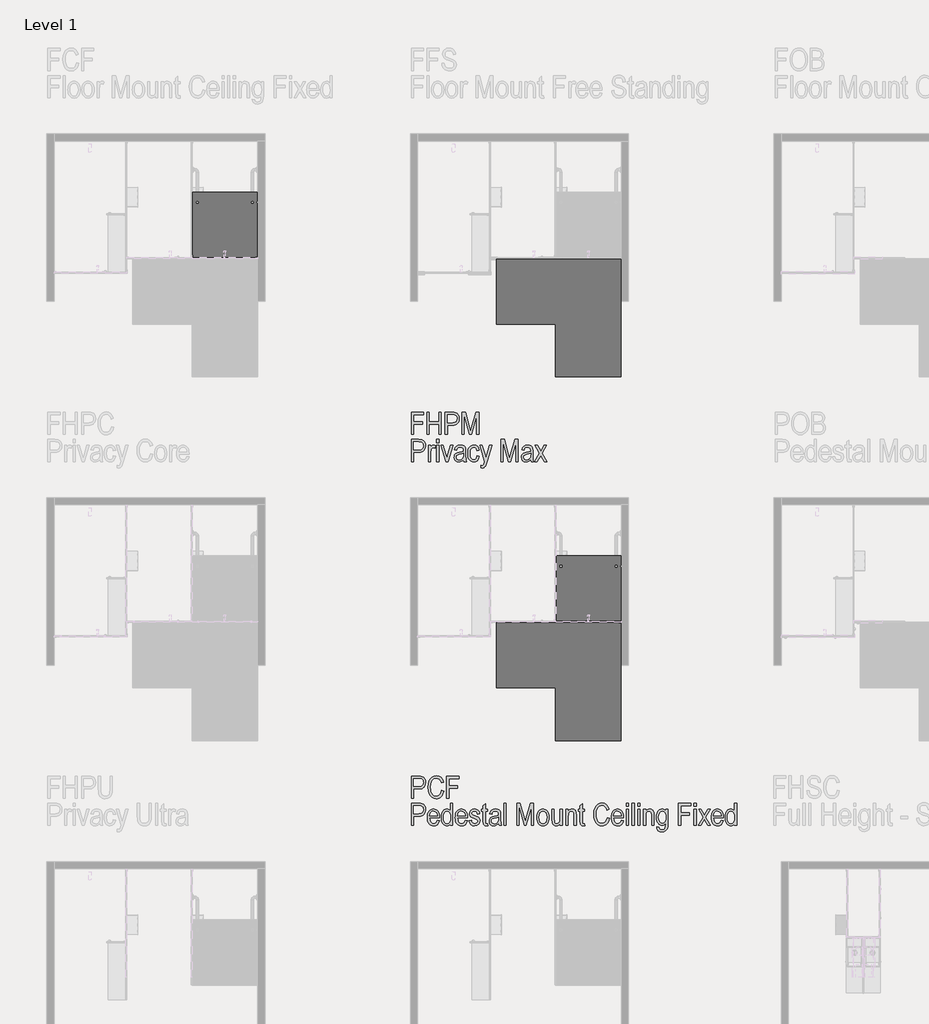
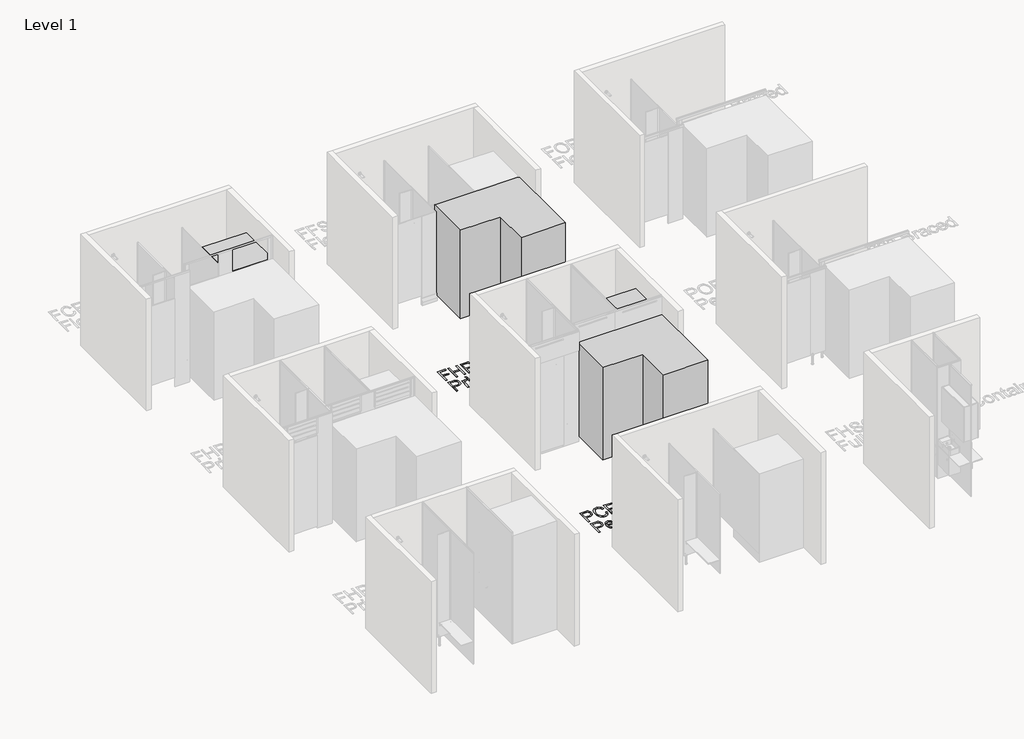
# One storey, part 9 of 21: 6 proxies.
"""IFC4 building model written with IfcOpenShell, lengths in millimetres."""

from ifc_helpers import new_model, si_unit, origin, origin_with_axes, place, context, project, spatial, polyline, outline, extrude, transform, mapped, element, save
from components import standard_f88c7766, standard_ef1a4fdd, standard_9fa9c6f0, standard_de9d4adc

model = new_model("IFC4")

# Units and contexts
model_context = context("Model", 3, world=origin())
ifc_project = project(units=[si_unit("LENGTHUNIT", "METRE", prefix="MILLI")], contexts=[model_context])

# Site, building, storey
site = spatial("IfcSite", under=ifc_project)
building = spatial("IfcBuilding", under=site)
storey = spatial("IfcBuildingStorey", under=building, Name="Level 1", Elevation=0.0)

# Proxies
placement = place(None, origin())
element("IfcBuildingElementProxy", 1, Name="Arial Narrow-300mm", ObjectType="Arial Narrow-300mm", at=placement, inside=storey, context=model_context, shape_type="SweptSolid", body=[
    extrude(outline(polyline([(-6218.8829157, 1023.6753804), (-6218.8829157, 1328.8527498), (-6124.0533551, 1328.8527498), (-6094.9430642, 1327.4299218), (-6074.6773795, 1323.161438), (-6055.1038814, 1312.0960665), (-6039.9142316, 1294.4356951), (-6030.1659373, 1271.0647846), (-6026.9165059, 1242.8677954), (-6032.3290204, 1206.278044), (-6039.0946635, 1190.7663352), (-6048.5665638, 1177.1100709), (-6061.3599982, 1165.9725967), (-6078.0902439, 1158.0172579), (-6098.7573006, 1153.2440547), (-6123.3611685, 1151.6529869), (-6189.3496219, 1151.6529869), (-6189.3496219, 1023.6753804), (-6218.8829157, 1023.6753804)]), holes=[polyline([(-6189.3496219, 1186.1084964), (-6119.7464164, 1186.1084964), (-6091.3090847, 1189.5405881), (-6071.6779044, 1199.8368634), (-6060.2568259, 1217.0550044), (-6056.4497997, 1241.2526934), (-6058.3244717, 1257.9516945), (-6063.9484876, 1272.0549959), (-6072.2258854, 1282.8511837), (-6082.060703, 1289.6288439), (-6096.9619417, 1293.2051412), (-6120.438603, 1294.3972403), (-6189.3496219, 1294.3972403), (-6189.3496219, 1186.1084964)])]), origin_with_axes(), (0.0, 0.0, 1.0), 5.0),
    extrude(outline(polyline([(-5805.4168023, 1131.9641244), (-5775.8835085, 1122.1196931), (-5790.7078377, 1076.6564944), (-5801.162739, 1058.8783552), (-5813.6461316, 1044.4025228), (-5827.879218, 1033.1809287), (-5843.5832009, 1025.1655043), (-5860.7580803, 1020.3562496), (-5879.4038561, 1018.7531648), (-5910.9368, 1022.9831938), (-5937.5475283, 1035.673281), (-5959.5052246, 1057.7175006), (-5977.0790726, 1090.0099271), (-5988.6155155, 1130.8008664), (-5992.4609965, 1178.3406248), (-5988.6251292, 1224.7651938), (-5977.1175274, 1263.4411186), (-5959.0629943, 1293.9838511), (-5935.586333, 1316.0088434), (-5907.870029, 1329.3334349), (-5877.0965675, 1333.7749654), (-5844.2177053, 1328.1509495), (-5816.3379683, 1311.2789018), (-5794.7648201, 1283.5049155), (-5780.8057242, 1245.175084), (-5810.339018, 1235.3306527), (-5820.9237043, 1263.3257541), (-5835.7576472, 1283.3222552), (-5854.8408464, 1295.3201558), (-5878.1733022, 1299.319456), (-5901.8518512, 1296.1277068), (-5922.1271496, 1286.5524592), (-5938.8357644, 1270.2187788), (-5951.8142627, 1246.7517312), (-5960.1493427, 1216.132089), (-5962.9277027, 1178.3406248), (-5961.5144884, 1149.0284462), (-5957.2748457, 1123.6194307), (-5950.2087744, 1102.1135784), (-5940.3162746, 1084.5108893), (-5928.0828383, 1070.8161702), (-5913.9939574, 1061.034228), (-5898.0496319, 1055.1650627), (-5880.2498619, 1053.2086742), (-5854.3986161, 1058.092435), (-5832.3736239, 1072.7437175), (-5815.5784858, 1097.3163409), (-5805.4168023, 1131.9641244)])), origin_with_axes(), (0.0, 0.0, 1.0), 5.0),
    extrude(outline(polyline([(-5736.5057835, 1023.6753804), (-5736.5057835, 1328.8527498), (-5569.1504519, 1328.8527498), (-5569.1504519, 1294.3972403), (-5706.9724896, 1294.3972403), (-5706.9724896, 1195.9529276), (-5588.8393144, 1195.9529276), (-5588.8393144, 1161.4974182), (-5706.9724896, 1161.4974182), (-5706.9724896, 1023.6753804), (-5736.5057835, 1023.6753804)])), origin_with_axes(), (0.0, 0.0, 1.0), 5.0),
    extrude(outline(polyline([(-6218.8829157, 650.573168), (-6218.8829157, 955.7505374), (-6124.0533551, 955.7505374), (-6094.9430642, 954.3277094), (-6074.6773795, 950.0592255), (-6055.1038814, 938.9938541), (-6039.9142316, 921.3334827), (-6030.1659373, 897.9625722), (-6026.9165059, 869.765583), (-6032.3290204, 833.1758316), (-6039.0946635, 817.6641228), (-6048.5665638, 804.0078585), (-6061.3599982, 792.8703843), (-6078.0902439, 784.9150455), (-6098.7573006, 780.1418423), (-6123.3611685, 778.5507745), (-6189.3496219, 778.5507745), (-6189.3496219, 650.573168), (-6218.8829157, 650.573168)]), holes=[polyline([(-6189.3496219, 813.006284), (-6119.7464164, 813.006284), (-6091.3090847, 816.4383757), (-6071.6779044, 826.734651), (-6060.2568259, 843.952792), (-6056.4497997, 868.150481), (-6058.3244717, 884.8494821), (-6063.9484876, 898.9527835), (-6072.2258854, 909.7489713), (-6082.060703, 916.5266315), (-6096.9619417, 920.1029288), (-6120.438603, 921.2950279), (-6189.3496219, 921.2950279), (-6189.3496219, 813.006284)])]), origin_with_axes(), (0.0, 0.0, 1.0), 5.0),
    extrude(outline(polyline([(-5864.48339, 719.4841869), (-5834.9500962, 714.5619713), (-5846.1596732, 684.6056745), (-5863.7912034, 663.0325263), (-5887.1332729, 649.9963459), (-5915.4744676, 645.6509524), (-5933.9664242, 647.4799593), (-5950.6029362, 652.9669799), (-5965.3840036, 662.1120143), (-5978.3096265, 674.9150625), (-5988.8077896, 691.1742367), (-5996.3064774, 710.6876492), (-6000.8056902, 733.4552999), (-6002.3054277, 759.4771889), (-6000.7984799, 786.4268002), (-5996.2776363, 809.9779677), (-5988.7428971, 830.1306914), (-5978.1942621, 846.8849713), (-5965.3383385, 860.058147), (-5950.8817335, 869.4675582), (-5934.8244471, 875.113205), (-5917.1664792, 876.9950872), (-5900.2487664, 875.1780975), (-5884.7971432, 869.7271282), (-5870.8116096, 860.6421794), (-5858.2921656, 847.9232511), (-5847.9790664, 831.7626174), (-5840.6125669, 812.3525522), (-5836.1926672, 789.6930556), (-5834.7193673, 763.7841276), (-5834.9500962, 753.9396963), (-5972.7721339, 753.9396963), (-5967.2250276, 719.6764609), (-5954.583009, 695.026928), (-5936.6149992, 680.1449166), (-5915.0899195, 675.1842462), (-5898.2851676, 677.9529925), (-5884.2491621, 686.2592314), (-5872.9819029, 700.1029628), (-5864.48339, 719.4841869)]), holes=[polyline([(-5970.7724838, 783.4729902), (-5864.48339, 783.4729902), (-5868.7903286, 808.7378001), (-5877.404206, 826.6961962), (-5895.0549636, 842.2703941), (-5916.9357503, 847.4617934), (-5937.0283884, 843.1356273), (-5953.9292772, 830.1571291), (-5965.792586, 809.8337622), (-5970.7724838, 783.4729902)])]), origin_with_axes(), (0.0, 0.0, 1.0), 5.0),
    extrude(outline(polyline([(-5682.3614115, 650.573168), (-5682.3614115, 677.3377155), (-5691.8501358, 663.7150992), (-5703.7038308, 653.7649172), (-5717.2687649, 647.6794436), (-5731.8912063, 645.6509524), (-5747.277937, 647.5472552), (-5761.5975468, 653.2361636), (-5774.8500355, 662.7176776), (-5787.0354033, 675.9917972), (-5797.2307347, 692.7028154), (-5804.5131143, 712.4950252), (-5808.8825421, 735.3684267), (-5810.339018, 761.3230198), (-5807.7048635, 796.1534636), (-5799.8024001, 825.2733682), (-5787.5064748, 848.15398), (-5771.6919343, 864.2665452), (-5753.1471023, 873.8129517), (-5732.6603025, 876.9950872), (-5717.8359734, 875.0723467), (-5704.1268337, 869.3041253), (-5692.1097057, 860.0941984), (-5682.3614115, 847.8463415), (-5682.3614115, 955.7505374), (-5652.8281177, 955.7505374), (-5652.8281177, 650.573168), (-5682.3614115, 650.573168)]), holes=[polyline([(-5780.8057242, 761.0922909), (-5777.0659939, 723.098939), (-5765.8468032, 696.3343915), (-5749.6477147, 680.4717825), (-5730.9682909, 675.1842462), (-5712.5868919, 680.2602811), (-5696.8204199, 695.4883857), (-5685.9761636, 720.9839245), (-5682.3614115, 756.8622619), (-5685.9761636, 797.7012697), (-5696.8204199, 825.7732808), (-5713.163714, 842.0396652), (-5733.2755794, 847.4617934), (-5751.3781811, 842.2511667), (-5766.7697187, 826.6192866), (-5777.2967228, 799.8162843), (-5780.8057242, 761.0922909)])]), origin_with_axes(), (0.0, 0.0, 1.0), 5.0),
    extrude(outline(polyline([(-5480.5505704, 719.4841869), (-5451.0172766, 714.5619713), (-5462.2268536, 684.6056745), (-5479.8583839, 663.0325263), (-5503.2004533, 649.9963459), (-5531.541648, 645.6509524), (-5550.0336046, 647.4799593), (-5566.6701166, 652.9669799), (-5581.4511841, 662.1120143), (-5594.376807, 674.9150625), (-5604.87497, 691.1742367), (-5612.3736579, 710.6876492), (-5616.8728706, 733.4552999), (-5618.3726082, 759.4771889), (-5616.8656604, 786.4268002), (-5612.3448168, 809.9779677), (-5604.8100775, 830.1306914), (-5594.2614426, 846.8849713), (-5581.405519, 860.058147), (-5566.948914, 869.4675582), (-5550.8916276, 875.113205), (-5533.2336597, 876.9950872), (-5516.3159468, 875.1780975), (-5500.8643236, 869.7271282), (-5486.87879, 860.6421794), (-5474.3593461, 847.9232511), (-5464.0462468, 831.7626174), (-5456.6797473, 812.3525522), (-5452.2598477, 789.6930556), (-5450.7865478, 763.7841276), (-5451.0172766, 753.9396963), (-5588.8393144, 753.9396963), (-5583.2922081, 719.6764609), (-5570.6501894, 695.026928), (-5552.6821796, 680.1449166), (-5531.1570999, 675.1842462), (-5514.3523481, 677.9529925), (-5500.3163426, 686.2592314), (-5489.0490834, 700.1029628), (-5480.5505704, 719.4841869)]), holes=[polyline([(-5586.8396643, 783.4729902), (-5480.5505704, 783.4729902), (-5484.8575091, 808.7378001), (-5493.4713865, 826.6961962), (-5511.1221441, 842.2703941), (-5533.0029308, 847.4617934), (-5553.0955688, 843.1356273), (-5569.9964577, 830.1571291), (-5581.8597665, 809.8337622), (-5586.8396643, 783.4729902)])]), origin_with_axes(), (0.0, 0.0, 1.0), 5.0),
    extrude(outline(polyline([(-5426.4061985, 714.5619713), (-5396.8729046, 719.4841869), (-5391.8353246, 699.9106888), (-5382.1062577, 686.1054121), (-5368.0702522, 677.9145377), (-5350.1118561, 675.1842462), (-5332.3841889, 677.6068992), (-5319.1941892, 684.8748582), (-5311.0033147, 695.8537064), (-5308.2730232, 709.4090268), (-5310.44572, 720.8108778), (-5316.9638102, 729.3286182), (-5347.5738387, 742.0187054), (-5395.4885315, 761.3230198), (-5406.4769934, 770.4848782), (-5414.6774815, 782.2808911), (-5419.7823575, 796.3072829), (-5421.4839828, 812.1602781), (-5416.9751564, 838.2903213), (-5403.4486771, 858.9982363), (-5381.9428248, 872.4958745), (-5353.4958794, 876.9950872), (-5334.6337952, 875.1204152), (-5318.1943641, 869.4963993), (-5304.7447944, 860.6998616), (-5294.8522946, 849.3076243), (-5287.9977248, 833.8872456), (-5283.661945, 813.006284), (-5313.1952388, 808.0840683), (-5317.2089596, 825.311823), (-5325.0970024, 837.6173621), (-5336.8593673, 845.0006856), (-5352.4960543, 847.4617934), (-5369.8776283, 845.3660063), (-5382.1831674, 839.0786449), (-5389.5088086, 829.5226247), (-5391.950689, 817.6208611), (-5389.5857182, 806.1421004), (-5382.4908058, 797.3936312), (-5348.727483, 783.4729902), (-5300.4666969, 764.2071305), (-5291.3336796, 755.8047546), (-5284.469496, 744.8259065), (-5280.1721711, 731.4147916), (-5278.7397294, 715.7156156), (-5283.6715587, 687.3936482), (-5298.4670468, 665.0321764), (-5321.7802751, 650.4962584), (-5352.2653254, 645.6509524), (-5380.8660901, 649.9578911), (-5402.7564905, 662.8787071), (-5417.9365266, 684.4134005), (-5426.4061985, 714.5619713)])), origin_with_axes(), (0.0, 0.0, 1.0), 5.0),
    extrude(outline(polyline([(-5175.3732011, 675.1842462), (-5170.4509854, 645.6509524), (-5192.754775, 645.6509524), (-5206.7907805, 647.2564407), (-5217.8273109, 652.0729056), (-5225.8643661, 659.6773442), (-5230.9019462, 669.6467536), (-5234.4397887, 714.0236039), (-5234.4397887, 842.5395778), (-5259.0508669, 842.5395778), (-5259.0508669, 872.0728716), (-5234.4397887, 872.0728716), (-5234.4397887, 921.2950279), (-5204.9064949, 945.9061061), (-5204.9064949, 872.0728716), (-5175.3732011, 872.0728716), (-5175.3732011, 842.5395778), (-5204.9064949, 842.5395778), (-5204.9064949, 707.2555574), (-5202.2915678, 683.0290273), (-5196.9463493, 677.1454415), (-5188.2940171, 675.1842462), (-5175.3732011, 675.1842462)])), origin_with_axes(), (0.0, 0.0, 1.0), 5.0),
    extrude(outline(polyline([(-5022.7845164, 678.1068117), (-5038.4067828, 663.9554418), (-5054.6635536, 653.803372), (-5071.5548287, 647.6890573), (-5089.0806082, 645.6509524), (-5114.383873, 649.9386636), (-5133.9958259, 662.8017975), (-5146.5705486, 682.9136629), (-5150.7621229, 708.9475691), (-5148.7528591, 727.0790118), (-5142.7250677, 743.0185304), (-5133.217116, 756.2373712), (-5120.7673714, 766.2067806), (-5103.2512056, 773.4651259), (-5078.5439904, 778.5507745), (-5045.6074459, 785.3572758), (-5022.7845164, 793.3174214), (-5022.7845164, 802.7773046), (-5024.8803035, 821.889345), (-5031.1676649, 834.3102485), (-5046.088131, 844.1739072), (-5067.315186, 847.4617934), (-5086.5425908, 845.3948474), (-5100.232503, 839.1940093), (-5109.7116136, 827.282632), (-5116.3066134, 808.0840683), (-5145.8399073, 813.006284), (-5136.0531582, 841.9146871), (-5119.6137271, 861.7285278), (-5095.5986984, 873.1784474), (-5063.0851569, 876.9950872), (-5037.4934811, 874.3128642), (-5018.0930296, 866.2661953), (-5004.7972792, 854.258681), (-4997.5197064, 839.6939219), (-4993.2512226, 793.394331), (-4993.2512226, 743.3261689), (-4991.2515725, 677.1454415), (-4983.4067913, 650.573168), (-5012.9400851, 650.573168), (-5019.1697643, 663.2248004), (-5022.7845164, 678.1068117)]), holes=[polyline([(-5022.7845164, 763.7841276), (-5044.8768045, 755.7470724), (-5075.6214248, 749.0174807), (-5104.1164388, 741.288064), (-5116.7296164, 728.9825249), (-5121.2288291, 710.6395807), (-5118.6523568, 696.1132763), (-5110.9229401, 684.8364034), (-5098.6366284, 677.5972855), (-5082.3894713, 675.1842462), (-5065.8731306, 677.3665566), (-5050.933437, 683.913488), (-5038.5702157, 694.1040125), (-5029.7832917, 707.2171026), (-5024.5342102, 725.1274302), (-5022.7845164, 749.7096673), (-5022.7845164, 763.7841276)])]), origin_with_axes(), (0.0, 0.0, 1.0), 5.0),
    extrude(outline(polyline([(-4948.9512819, 650.573168), (-4948.9512819, 955.7505374), (-4919.417988, 955.7505374), (-4919.417988, 650.573168), (-4948.9512819, 650.573168)])), origin_with_axes(), (0.0, 0.0, 1.0), 5.0),
    extrude(outline(polyline([(-4771.751519, 650.573168), (-4771.751519, 955.7505374), (-4724.9135608, 955.7505374), (-4667.5389848, 739.6345072), (-4656.0794516, 694.4885606), (-4642.6971778, 743.4030785), (-4582.6307651, 955.7505374), (-4540.4073841, 955.7505374), (-4540.4073841, 650.573168), (-4569.940678, 650.573168), (-4569.940678, 910.8353197), (-4643.1586355, 650.573168), (-4669.7693638, 650.573168), (-4742.2182252, 925.4481474), (-4742.2182252, 650.573168), (-4771.751519, 650.573168)])), origin_with_axes(), (0.0, 0.0, 1.0), 5.0),
    extrude(outline(polyline([(-4496.1074434, 761.3230198), (-4494.6269333, 788.2149489), (-4490.1854027, 811.5930697), (-4482.7828519, 831.4573823), (-4472.4192807, 847.8078867), (-4459.7868757, 860.5772869), (-4445.5778236, 869.6982871), (-4429.7921242, 875.1708872), (-4412.4297776, 876.9950872), (-4395.3173873, 875.1708872), (-4379.6662798, 869.6982871), (-4365.4764551, 860.5772869), (-4352.7479131, 847.8078867), (-4342.24975, 831.6015879), (-4334.7510621, 812.1698919), (-4330.2518494, 789.5127987), (-4328.7521118, 763.6303084), (-4330.2254117, 735.7289405), (-4334.6453114, 711.629792), (-4342.0118109, 691.3328628), (-4352.3249102, 674.8381529), (-4364.9212637, 662.0687527), (-4379.1375262, 652.9477525), (-4394.9736975, 647.4751524), (-4412.4297776, 645.6509524), (-4429.6359015, 647.4799593), (-4445.337481, 652.9669799), (-4459.534516, 662.1120143), (-4472.2270066, 674.9150625), (-4482.6746977, 691.2896011), (-4490.1373342, 711.1491069), (-4494.6149161, 734.4935798), (-4496.1074434, 761.3230198)]), holes=[polyline([(-4466.5741496, 761.3999294), (-4462.6229179, 723.3681227), (-4450.7692229, 696.4882107), (-4433.0703967, 680.5102373), (-4411.5837718, 675.1842462), (-4391.2219501, 680.5583058), (-4373.974968, 696.6804848), (-4362.2077962, 723.6084652), (-4358.2854057, 761.3999294), (-4362.2366373, 799.3163717), (-4374.0903324, 826.1578289), (-4391.7891586, 842.1358023), (-4413.2757834, 847.4617934), (-4433.7818107, 842.1069612), (-4450.9999517, 826.0424644), (-4462.6806001, 799.1721662), (-4466.5741496, 761.3999294)])]), origin_with_axes(), (0.0, 0.0, 1.0), 5.0),
    extrude(outline(polyline([(-4176.1634272, 650.573168), (-4176.1634272, 680.4910099), (-4187.1230479, 665.272519), (-4199.8515899, 654.3801942), (-4214.3490531, 647.8332628), (-4230.6154376, 645.6509524), (-4249.4390669, 648.5446768), (-4265.3016759, 657.2258501), (-4277.2995765, 670.3389402), (-4284.5290807, 686.528415), (-4289.3743868, 734.8661108), (-4289.3743868, 872.0728716), (-4259.841093, 872.0728716), (-4259.841093, 747.4792883), (-4256.4955245, 701.0643331), (-4251.7175144, 690.4988741), (-4244.074621, 682.2599312), (-4234.3647816, 676.9531674), (-4223.3859334, 675.1842462), (-4203.7739805, 679.7795959), (-4188.0075085, 693.5656452), (-4179.1244475, 716.023254), (-4176.1634272, 751.7093174), (-4176.1634272, 872.0728716), (-4146.6301333, 872.0728716), (-4146.6301333, 650.573168), (-4176.1634272, 650.573168)])), origin_with_axes(), (0.0, 0.0, 1.0), 5.0),
    extrude(outline(polyline([(-4097.407977, 650.573168), (-4097.407977, 872.0728716), (-4067.8746832, 872.0728716), (-4067.8746832, 843.4624932), (-4057.3572927, 858.1810716), (-4044.7248878, 868.6503935), (-4030.0351505, 874.9089138), (-4013.3457631, 876.9950872), (-3987.8502243, 871.2653206), (-3968.930458, 856.2679448), (-3958.2015661, 832.195234), (-3954.6637236, 786.7031942), (-3954.6637236, 650.573168), (-3984.1970174, 650.573168), (-3984.1970174, 787.3184711), (-3988.2347724, 823.5429018), (-3993.416558, 833.6949716), (-4000.8864048, 841.2321142), (-4010.1924687, 845.9043736), (-4020.8829058, 847.4617934), (-4040.1679928, 843.2798329), (-4055.1076864, 830.7339512), (-4064.682934, 808.0359998), (-4067.8746832, 773.39783), (-4067.8746832, 650.573168), (-4097.407977, 650.573168)])), origin_with_axes(), (0.0, 0.0, 1.0), 5.0),
    extrude(outline(polyline([(-3841.452764, 675.1842462), (-3836.5305483, 645.6509524), (-3858.8343379, 645.6509524), (-3872.8703435, 647.2564407), (-3883.9068738, 652.0729056), (-3891.943929, 659.6773442), (-3896.9815091, 669.6467536), (-3900.5193516, 714.0236039), (-3900.5193516, 842.5395778), (-3925.1304298, 842.5395778), (-3925.1304298, 872.0728716), (-3900.5193516, 872.0728716), (-3900.5193516, 921.2950279), (-3870.9860578, 945.9061061), (-3870.9860578, 872.0728716), (-3841.452764, 872.0728716), (-3841.452764, 842.5395778), (-3870.9860578, 842.5395778), (-3870.9860578, 707.2555574), (-3868.3711307, 683.0290273), (-3863.0259122, 677.1454415), (-3854.37358, 675.1842462), (-3841.452764, 675.1842462)])), origin_with_axes(), (0.0, 0.0, 1.0), 5.0),
    extrude(outline(polyline([(-3526.4309633, 758.861912), (-3496.8976695, 749.0174807), (-3511.7219986, 703.554282), (-3522.1769, 685.7761428), (-3534.6602926, 671.3003104), (-3548.893379, 660.0787163), (-3564.5973619, 652.0632919), (-3581.7722413, 647.2540372), (-3600.4180171, 645.6509524), (-3631.950961, 649.8809814), (-3658.5616893, 662.5710686), (-3680.5193856, 684.6152882), (-3698.0932336, 716.9077147), (-3709.6296765, 757.698654), (-3713.4751575, 805.2384124), (-3709.6392902, 851.6629814), (-3698.1316884, 890.3389062), (-3680.0771553, 920.8816387), (-3656.600494, 942.906631), (-3628.8841899, 956.2312225), (-3598.1107285, 960.672753), (-3565.2318663, 955.0487371), (-3537.3521293, 938.1766894), (-3515.7789811, 910.4027031), (-3501.8198852, 872.0728716), (-3531.353179, 862.2284403), (-3541.9378653, 890.2235417), (-3556.7718081, 910.2200428), (-3575.8550074, 922.2179434), (-3599.1874632, 926.2172436), (-3622.8660122, 923.0254944), (-3643.1413106, 913.4502468), (-3659.8499254, 897.1165664), (-3672.8284237, 873.6495188), (-3681.1635037, 843.0298766), (-3683.9418637, 805.2384124), (-3682.5286494, 775.9262338), (-3678.2890066, 750.5172183), (-3671.2229354, 729.011366), (-3661.3304356, 711.4086769), (-3649.0969993, 697.7139578), (-3635.0081184, 687.9320156), (-3619.0637929, 682.0628503), (-3601.2640229, 680.1064618), (-3575.4127771, 684.9902226), (-3553.3877849, 699.6415051), (-3536.5926468, 724.2141285), (-3526.4309633, 758.861912)])), origin_with_axes(), (0.0, 0.0, 1.0), 5.0),
    extrude(outline(polyline([(-3334.4645536, 719.4841869), (-3304.9312598, 714.5619713), (-3316.1408368, 684.6056745), (-3333.772367, 663.0325263), (-3357.1144365, 649.9963459), (-3385.4556312, 645.6509524), (-3403.9475878, 647.4799593), (-3420.5840998, 652.9669799), (-3435.3651672, 662.1120143), (-3448.2907901, 674.9150625), (-3458.7889532, 691.1742367), (-3466.287641, 710.6876492), (-3470.7868538, 733.4552999), (-3472.2865913, 759.4771889), (-3470.7796435, 786.4268002), (-3466.2587999, 809.9779677), (-3458.7240607, 830.1306914), (-3448.1754257, 846.8849713), (-3435.3195021, 860.058147), (-3420.8628971, 869.4675582), (-3404.8056107, 875.113205), (-3387.1476428, 876.9950872), (-3370.22993, 875.1780975), (-3354.7783068, 869.7271282), (-3340.7927732, 860.6421794), (-3328.2733292, 847.9232511), (-3317.96023, 831.7626174), (-3310.5937305, 812.3525522), (-3306.1738308, 789.6930556), (-3304.7005309, 763.7841276), (-3304.9312598, 753.9396963), (-3442.7532975, 753.9396963), (-3437.2061912, 719.6764609), (-3424.5641726, 695.026928), (-3406.5961628, 680.1449166), (-3385.0710831, 675.1842462), (-3368.2663312, 677.9529925), (-3354.2303257, 686.2592314), (-3342.9630665, 700.1029628), (-3334.4645536, 719.4841869)]), holes=[polyline([(-3440.7536474, 783.4729902), (-3334.4645536, 783.4729902), (-3338.7714922, 808.7378001), (-3347.3853696, 826.6961962), (-3365.0361272, 842.2703941), (-3386.9169139, 847.4617934), (-3407.009552, 843.1356273), (-3423.9104408, 830.1571291), (-3435.7737496, 809.8337622), (-3440.7536474, 783.4729902)])]), origin_with_axes(), (0.0, 0.0, 1.0), 5.0),
    extrude(outline(polyline([(-3265.5535347, 650.573168), (-3265.5535347, 872.0728716), (-3236.0202409, 872.0728716), (-3236.0202409, 650.573168), (-3265.5535347, 650.573168)])), origin_with_axes(), (0.0, 0.0, 1.0), 5.0),
    extrude(outline(polyline([(-3265.5535347, 911.4505967), (-3265.5535347, 955.7505374), (-3236.0202409, 955.7505374), (-3236.0202409, 911.4505967), (-3265.5535347, 911.4505967)])), origin_with_axes(), (0.0, 0.0, 1.0), 5.0),
    extrude(outline(polyline([(-3186.7980845, 650.573168), (-3186.7980845, 955.7505374), (-3157.2647907, 955.7505374), (-3157.2647907, 650.573168), (-3186.7980845, 650.573168)])), origin_with_axes(), (0.0, 0.0, 1.0), 5.0),
    extrude(outline(polyline([(-3108.0426344, 650.573168), (-3108.0426344, 872.0728716), (-3078.5093405, 872.0728716), (-3078.5093405, 650.573168), (-3108.0426344, 650.573168)])), origin_with_axes(), (0.0, 0.0, 1.0), 5.0),
    extrude(outline(polyline([(-3108.0426344, 911.4505967), (-3108.0426344, 955.7505374), (-3078.5093405, 955.7505374), (-3078.5093405, 911.4505967), (-3108.0426344, 911.4505967)])), origin_with_axes(), (0.0, 0.0, 1.0), 5.0),
    extrude(outline(polyline([(-3029.2871842, 650.573168), (-3029.2871842, 872.0728716), (-2999.7538904, 872.0728716), (-2999.7538904, 843.4624932), (-2989.2364999, 858.1810716), (-2976.604095, 868.6503935), (-2961.9143577, 874.9089138), (-2945.2249703, 876.9950872), (-2919.7294315, 871.2653206), (-2900.8096652, 856.2679448), (-2890.0807733, 832.195234), (-2886.5429308, 786.7031942), (-2886.5429308, 650.573168), (-2916.0762246, 650.573168), (-2916.0762246, 787.3184711), (-2920.1139796, 823.5429018), (-2925.2957652, 833.6949716), (-2932.765612, 841.2321142), (-2942.0716759, 845.9043736), (-2952.762113, 847.4617934), (-2972.0472, 843.2798329), (-2986.9868936, 830.7339512), (-2996.5621412, 808.0359998), (-2999.7538904, 773.39783), (-2999.7538904, 650.573168), (-3029.2871842, 650.573168)])), origin_with_axes(), (0.0, 0.0, 1.0), 5.0),
    extrude(outline(polyline([(-2847.1652057, 630.8843055), (-2817.6319119, 625.9620898), (-2813.4403376, 610.7435989), (-2805.0187343, 600.0050933), (-2792.4440116, 593.6312086), (-2775.793079, 591.5065804), (-2757.4885896, 593.9003923), (-2743.3372196, 601.081828), (-2733.1851499, 612.9932053), (-2726.8785611, 629.5768419), (-2724.1098148, 678.1068117), (-2734.6560464, 666.1089111), (-2746.4520592, 657.4950337), (-2759.5555356, 652.3036344), (-2774.0241577, 650.573168), (-2789.4877981, 652.2940207), (-2803.576679, 657.4565789), (-2816.2908004, 666.0608426), (-2827.6301624, 678.1068117), (-2838.3302132, 695.2913048), (-2845.9731066, 715.1580208), (-2850.5588427, 737.7069598), (-2852.0874213, 762.9381218), (-2849.3475161, 796.3745788), (-2841.1278006, 825.311823), (-2828.4569408, 848.4520048), (-2812.363603, 864.4972741), (-2793.4919051, 873.8706339), (-2772.4859654, 876.9950872), (-2756.9694497, 875.1108015), (-2742.8757619, 869.4579445), (-2730.2625844, 860.0365162), (-2719.1875992, 846.8465165), (-2719.1875992, 872.0728716), (-2694.576521, 872.0728716), (-2694.576521, 681.4139253), (-2696.643467, 637.8061712), (-2702.8443051, 608.8112447), (-2713.7462436, 589.4011796), (-2729.9164911, 574.5480093), (-2750.6340198, 565.1169673), (-2775.177802, 561.9732866), (-2806.1243101, 566.5397952), (-2828.9760807, 580.2393212), (-2842.9255629, 602.0335845), (-2847.1652057, 630.8843055)]), holes=[polyline([(-2822.5541275, 765.2454104), (-2818.824011, 726.8675103), (-2807.6336614, 700.4875109), (-2791.040411, 685.2017241), (-2771.1015922, 680.1064618), (-2751.1050912, 685.0959734), (-2734.3387942, 700.064508), (-2722.9753979, 725.9157538), (-2719.1875992, 763.5533988), (-2723.0811487, 800.6238353), (-2734.7617971, 826.7731058), (-2751.9991655, 842.2896215), (-2772.562875, 847.4617934), (-2791.2615262, 842.2896215), (-2807.518297, 826.7731058), (-2818.7951699, 801.0468382), (-2822.5541275, 765.2454104)])]), origin_with_axes(), (0.0, 0.0, 1.0), 5.0),
    extrude(outline(polyline([(-2546.910052, 650.573168), (-2546.910052, 955.7505374), (-2379.5547204, 955.7505374), (-2379.5547204, 921.2950279), (-2517.3767582, 921.2950279), (-2517.3767582, 822.8507152), (-2399.2435829, 822.8507152), (-2399.2435829, 788.3952058), (-2517.3767582, 788.3952058), (-2517.3767582, 650.573168), (-2546.910052, 650.573168)])), origin_with_axes(), (0.0, 0.0, 1.0), 5.0),
    extrude(outline(polyline([(-2335.2547797, 650.573168), (-2335.2547797, 872.0728716), (-2305.7214858, 872.0728716), (-2305.7214858, 650.573168), (-2335.2547797, 650.573168)])), origin_with_axes(), (0.0, 0.0, 1.0), 5.0),
    extrude(outline(polyline([(-2335.2547797, 911.4505967), (-2335.2547797, 955.7505374), (-2305.7214858, 955.7505374), (-2305.7214858, 911.4505967), (-2335.2547797, 911.4505967)])), origin_with_axes(), (0.0, 0.0, 1.0), 5.0),
    extrude(outline(polyline([(-2276.188192, 650.573168), (-2209.2768232, 765.6299585), (-2271.2659764, 872.0728716), (-2237.7333824, 872.0728716), (-2206.9695347, 819.2359631), (-2192.5105262, 794.3172465), (-2179.3589813, 816.8517649), (-2147.2876701, 872.0728716), (-2113.7550761, 872.0728716), (-2175.7442292, 765.5530489), (-2108.8328604, 650.573168), (-2142.3654545, 650.573168), (-2182.666095, 719.9456446), (-2192.5105262, 736.7119416), (-2242.655598, 650.573168), (-2276.188192, 650.573168)])), origin_with_axes(), (0.0, 0.0, 1.0), 5.0),
    extrude(outline(polyline([(-1961.1663914, 719.4841869), (-1931.6330976, 714.5619713), (-1942.8426746, 684.6056745), (-1960.4742048, 663.0325263), (-1983.8162743, 649.9963459), (-2012.157469, 645.6509524), (-2030.6494256, 647.4799593), (-2047.2859376, 652.9669799), (-2062.0670051, 662.1120143), (-2074.992628, 674.9150625), (-2085.490791, 691.1742367), (-2092.9894789, 710.6876492), (-2097.4886916, 733.4552999), (-2098.9884292, 759.4771889), (-2097.4814813, 786.4268002), (-2092.9606378, 809.9779677), (-2085.4258985, 830.1306914), (-2074.8772635, 846.8849713), (-2062.02134, 860.058147), (-2047.564735, 869.4675582), (-2031.5074485, 875.113205), (-2013.8494806, 876.9950872), (-1996.9317678, 875.1780975), (-1981.4801446, 869.7271282), (-1967.494611, 860.6421794), (-1954.975167, 847.9232511), (-1944.6620678, 831.7626174), (-1937.2955683, 812.3525522), (-1932.8756686, 789.6930556), (-1931.4023687, 763.7841276), (-1931.6330976, 753.9396963), (-2069.4551354, 753.9396963), (-2063.9080291, 719.6764609), (-2051.2660104, 695.026928), (-2033.2980006, 680.1449166), (-2011.7729209, 675.1842462), (-1994.9681691, 677.9529925), (-1980.9321636, 686.2592314), (-1969.6649043, 700.1029628), (-1961.1663914, 719.4841869)]), holes=[polyline([(-2067.4554853, 783.4729902), (-1961.1663914, 783.4729902), (-1965.4733301, 808.7378001), (-1974.0872074, 826.6961962), (-1991.7379651, 842.2703941), (-2013.6187518, 847.4617934), (-2033.7113898, 843.1356273), (-2050.6122786, 830.1571291), (-2062.4755874, 809.8337622), (-2067.4554853, 783.4729902)])]), origin_with_axes(), (0.0, 0.0, 1.0), 5.0),
    extrude(outline(polyline([(-1779.0444129, 650.573168), (-1779.0444129, 677.3377155), (-1788.5331372, 663.7150992), (-1800.3868323, 653.7649172), (-1813.9517664, 647.6794436), (-1828.5742077, 645.6509524), (-1843.9609384, 647.5472552), (-1858.2805482, 653.2361636), (-1871.533037, 662.7176776), (-1883.7184048, 675.9917972), (-1893.9137362, 692.7028154), (-1901.1961157, 712.4950252), (-1905.5655435, 735.3684267), (-1907.0220194, 761.3230198), (-1904.387865, 796.1534636), (-1896.4854016, 825.2733682), (-1884.1894762, 848.15398), (-1868.3749357, 864.2665452), (-1849.8301038, 873.8129517), (-1829.3433039, 876.9950872), (-1814.5189748, 875.0723467), (-1800.8098352, 869.3041253), (-1788.7927071, 860.0941984), (-1779.0444129, 847.8463415), (-1779.0444129, 955.7505374), (-1749.5111191, 955.7505374), (-1749.5111191, 650.573168), (-1779.0444129, 650.573168)]), holes=[polyline([(-1877.4887256, 761.0922909), (-1873.7489954, 723.098939), (-1862.5298046, 696.3343915), (-1846.3307161, 680.4717825), (-1827.6512923, 675.1842462), (-1809.2698933, 680.2602811), (-1793.5034213, 695.4883857), (-1782.659165, 720.9839245), (-1779.0444129, 756.8622619), (-1782.659165, 797.7012697), (-1793.5034213, 825.7732808), (-1809.8467154, 842.0396652), (-1829.9585809, 847.4617934), (-1848.0611825, 842.2511667), (-1863.4527201, 826.6192866), (-1873.9797242, 799.8162843), (-1877.4887256, 761.0922909)])]), origin_with_axes(), (0.0, 0.0, 1.0), 5.0),
])
element("IfcBuildingElementProxy", 2, Name="Arial Narrow-300mm", ObjectType="Arial Narrow-300mm", at=placement, inside=storey, context=model_context, shape_type="SweptSolid", body=[
    extrude(outline(polyline([(-6218.8829157, 6023.6753804), (-6218.8829157, 6328.8527498), (-6051.5275841, 6328.8527498), (-6051.5275841, 6294.3972403), (-6189.3496219, 6294.3972403), (-6189.3496219, 6195.9529276), (-6071.2164466, 6195.9529276), (-6071.2164466, 6161.4974182), (-6189.3496219, 6161.4974182), (-6189.3496219, 6023.6753804), (-6218.8829157, 6023.6753804)])), origin_with_axes(), (0.0, 0.0, 1.0), 5.0),
    extrude(outline(polyline([(-6007.2276434, 6023.6753804), (-6007.2276434, 6328.8527498), (-5977.6943496, 6328.8527498), (-5977.6943496, 6200.8751433), (-5844.7945274, 6200.8751433), (-5844.7945274, 6328.8527498), (-5815.2612336, 6328.8527498), (-5815.2612336, 6023.6753804), (-5844.7945274, 6023.6753804), (-5844.7945274, 6166.4196338), (-5977.6943496, 6166.4196338), (-5977.6943496, 6023.6753804), (-6007.2276434, 6023.6753804)])), origin_with_axes(), (0.0, 0.0, 1.0), 5.0),
    extrude(outline(polyline([(-5756.194646, 6023.6753804), (-5756.194646, 6328.8527498), (-5661.3650854, 6328.8527498), (-5632.2547945, 6327.4299218), (-5611.9891098, 6323.161438), (-5592.4156117, 6312.0960665), (-5577.2259619, 6294.4356951), (-5567.4776676, 6271.0647846), (-5564.2282362, 6242.8677954), (-5569.6407507, 6206.278044), (-5576.4063938, 6190.7663352), (-5585.8782941, 6177.1100709), (-5598.6717285, 6165.9725967), (-5615.4019742, 6158.0172579), (-5636.0690309, 6153.2440547), (-5660.6728988, 6151.6529869), (-5726.6613522, 6151.6529869), (-5726.6613522, 6023.6753804), (-5756.194646, 6023.6753804)]), holes=[polyline([(-5726.6613522, 6186.1084964), (-5657.0581467, 6186.1084964), (-5628.620815, 6189.5405881), (-5608.9896347, 6199.8368634), (-5597.5685562, 6217.0550044), (-5593.76153, 6241.2526934), (-5595.636202, 6257.9516945), (-5601.2602179, 6272.0549959), (-5609.5376157, 6282.8511837), (-5619.3724333, 6289.6288439), (-5634.273672, 6293.2051412), (-5657.7503333, 6294.3972403), (-5726.6613522, 6294.3972403), (-5726.6613522, 6186.1084964)])]), origin_with_axes(), (0.0, 0.0, 1.0), 5.0),
    extrude(outline(polyline([(-5524.8505112, 6023.6753804), (-5524.8505112, 6328.8527498), (-5478.012553, 6328.8527498), (-5420.637977, 6112.7367196), (-5409.1784437, 6067.590773), (-5395.79617, 6116.5052909), (-5335.7297573, 6328.8527498), (-5293.5063763, 6328.8527498), (-5293.5063763, 6023.6753804), (-5323.0396701, 6023.6753804), (-5323.0396701, 6283.9375321), (-5396.2576277, 6023.6753804), (-5422.868356, 6023.6753804), (-5495.3172173, 6298.5503598), (-5495.3172173, 6023.6753804), (-5524.8505112, 6023.6753804)])), origin_with_axes(), (0.0, 0.0, 1.0), 5.0),
    extrude(outline(polyline([(-6218.8829157, 5650.573168), (-6218.8829157, 5955.7505374), (-6124.0533551, 5955.7505374), (-6094.9430642, 5954.3277094), (-6074.6773795, 5950.0592255), (-6055.1038814, 5938.9938541), (-6039.9142316, 5921.3334827), (-6030.1659373, 5897.9625722), (-6026.9165059, 5869.765583), (-6032.3290204, 5833.1758316), (-6039.0946635, 5817.6641228), (-6048.5665638, 5804.0078585), (-6061.3599982, 5792.8703843), (-6078.0902439, 5784.9150455), (-6098.7573006, 5780.1418423), (-6123.3611685, 5778.5507745), (-6189.3496219, 5778.5507745), (-6189.3496219, 5650.573168), (-6218.8829157, 5650.573168)]), holes=[polyline([(-6189.3496219, 5813.006284), (-6119.7464164, 5813.006284), (-6091.3090847, 5816.4383757), (-6071.6779044, 5826.734651), (-6060.2568259, 5843.952792), (-6056.4497997, 5868.150481), (-6058.3244717, 5884.8494821), (-6063.9484876, 5898.9527835), (-6072.2258854, 5909.7489713), (-6082.060703, 5916.5266315), (-6096.9619417, 5920.1029288), (-6120.438603, 5921.2950279), (-6189.3496219, 5921.2950279), (-6189.3496219, 5813.006284)])]), origin_with_axes(), (0.0, 0.0, 1.0), 5.0),
    extrude(outline(polyline([(-5987.5387808, 5650.573168), (-5987.5387808, 5872.0728716), (-5958.005487, 5872.0728716), (-5958.005487, 5842.693397), (-5948.122601, 5859.9596065), (-5939.0857207, 5870.2270407), (-5929.933476, 5875.3030756), (-5919.7044966, 5876.9950872), (-5904.5533016, 5874.5339794), (-5889.0944681, 5867.1506559), (-5898.9388994, 5837.6173621), (-5921.857966, 5842.5395778), (-5931.5005095, 5840.7802702), (-5940.2778198, 5835.5023476), (-5947.3823459, 5827.0711306), (-5952.0065367, 5815.8519399), (-5958.005487, 5769.167801), (-5958.005487, 5650.573168), (-5987.5387808, 5650.573168)])), origin_with_axes(), (0.0, 0.0, 1.0), 5.0),
    extrude(outline(polyline([(-5874.3278212, 5911.4505967), (-5874.3278212, 5955.7505374), (-5844.7945274, 5955.7505374), (-5844.7945274, 5911.4505967), (-5874.3278212, 5911.4505967)])), origin_with_axes(), (0.0, 0.0, 1.0), 5.0),
    extrude(outline(polyline([(-5874.3278212, 5650.573168), (-5874.3278212, 5872.0728716), (-5844.7945274, 5872.0728716), (-5844.7945274, 5650.573168), (-5874.3278212, 5650.573168)])), origin_with_axes(), (0.0, 0.0, 1.0), 5.0),
    extrude(outline(polyline([(-5746.504034, 5650.573168), (-5816.1841491, 5872.0728716), (-5785.7279398, 5872.0728716), (-5745.9656666, 5739.4806879), (-5734.0446756, 5694.8731087), (-5722.8158712, 5737.0195801), (-5682.3614115, 5872.0728716), (-5651.9052022, 5872.0728716), (-5716.4323728, 5650.573168), (-5746.504034, 5650.573168)])), origin_with_axes(), (0.0, 0.0, 1.0), 5.0),
    extrude(outline(polyline([(-5505.1616486, 5678.1068117), (-5520.783915, 5663.9554418), (-5537.0406858, 5653.803372), (-5553.9319609, 5647.6890573), (-5571.4577404, 5645.6509524), (-5596.7610052, 5649.9386636), (-5616.3729581, 5662.8017975), (-5628.9476809, 5682.9136629), (-5633.1392551, 5708.9475691), (-5631.1299913, 5727.0790118), (-5625.1021999, 5743.0185304), (-5615.5942482, 5756.2373712), (-5603.1445036, 5766.2067806), (-5585.6283378, 5773.4651259), (-5560.9211226, 5778.5507745), (-5527.9845781, 5785.3572758), (-5505.1616486, 5793.3174214), (-5505.1616486, 5802.7773046), (-5507.2574357, 5821.889345), (-5513.5447971, 5834.3102485), (-5528.4652633, 5844.1739072), (-5549.6923182, 5847.4617934), (-5568.919723, 5845.3948474), (-5582.6096352, 5839.1940093), (-5592.0887458, 5827.282632), (-5598.6837457, 5808.0840683), (-5628.2170395, 5813.006284), (-5618.4302904, 5841.9146871), (-5601.9908593, 5861.7285278), (-5577.9758307, 5873.1784474), (-5545.4622891, 5876.9950872), (-5519.8706133, 5874.3128642), (-5500.4701618, 5866.2661953), (-5487.1744114, 5854.258681), (-5479.8968387, 5839.6939219), (-5475.6283548, 5793.394331), (-5475.6283548, 5743.3261689), (-5473.6287047, 5677.1454415), (-5465.7839235, 5650.573168), (-5495.3172173, 5650.573168), (-5501.5468965, 5663.2248004), (-5505.1616486, 5678.1068117)]), holes=[polyline([(-5505.1616486, 5763.7841276), (-5527.2539368, 5755.7470724), (-5557.9985571, 5749.0174807), (-5586.493571, 5741.288064), (-5599.1067486, 5728.9825249), (-5603.6059613, 5710.6395807), (-5601.0294891, 5696.1132763), (-5593.3000723, 5684.8364034), (-5581.0137606, 5677.5972855), (-5564.7666036, 5675.1842462), (-5548.2502628, 5677.3665566), (-5533.3105693, 5683.913488), (-5520.947348, 5694.1040125), (-5512.160424, 5707.2171026), (-5506.9113425, 5725.1274302), (-5505.1616486, 5749.7096673), (-5505.1616486, 5763.7841276)])]), origin_with_axes(), (0.0, 0.0, 1.0), 5.0),
    extrude(outline(polyline([(-5318.1174545, 5729.3286182), (-5288.5841607, 5724.4064025), (-5297.6691095, 5690.5757837), (-5314.6180668, 5665.8397274), (-5337.5852019, 5650.6981461), (-5364.7246838, 5645.6509524), (-5381.7024822, 5647.4799593), (-5397.1036335, 5652.9669799), (-5410.9281376, 5662.1120143), (-5423.1759944, 5674.9150625), (-5433.2030861, 5691.3040217), (-5440.3652944, 5711.2067891), (-5444.6626193, 5734.6233648), (-5446.095061, 5761.5537487), (-5444.6193577, 5788.5946901), (-5440.1922477, 5812.0353), (-5432.8137311, 5831.8755784), (-5422.4838079, 5848.1155252), (-5409.8369823, 5860.7503336), (-5395.5077589, 5869.7751967), (-5379.4961375, 5875.1901146), (-5361.8021182, 5876.9950872), (-5335.5086421, 5872.6881485), (-5313.6951514, 5859.7673325), (-5297.6306546, 5838.2326391), (-5288.5841607, 5808.0840683), (-5318.1174545, 5803.1618527), (-5324.4240433, 5822.5911453), (-5334.1146553, 5836.425263), (-5346.6316958, 5844.7026608), (-5361.4175701, 5847.4617934), (-5383.2118335, 5842.3569174), (-5400.9106597, 5827.0422895), (-5412.6489903, 5800.6142216), (-5416.5617672, 5762.1690256), (-5412.918174, 5722.5990265), (-5401.9873943, 5695.7191145), (-5385.3653029, 5680.3179633), (-5364.6477742, 5675.1842462), (-5348.1025923, 5678.4817461), (-5334.1531101, 5688.3742459), (-5323.81838, 5705.2078388), (-5318.1174545, 5729.3286182)])), origin_with_axes(), (0.0, 0.0, 1.0), 5.0),
    extrude(outline(polyline([(-5263.9730825, 5566.8955022), (-5263.9730825, 5601.3510117), (-5248.5911586, 5596.428796), (-5234.3628791, 5600.7357347), (-5225.1337248, 5614.1949181), (-5212.751276, 5654.0341009), (-5278.7397294, 5872.0728716), (-5248.1297009, 5872.0728716), (-5210.4439875, 5752.5553232), (-5197.4462618, 5704.7944496), (-5185.1407227, 5751.786227), (-5146.9166419, 5872.0728716), (-5116.3066134, 5872.0728716), (-5184.2947169, 5646.8815063), (-5205.2525882, 5589.2377466), (-5213.4146215, 5576.7687746), (-5222.5957073, 5568.356785), (-5232.9400511, 5563.5691612), (-5244.5918584, 5561.9732866), (-5263.9730825, 5566.8955022)])), origin_with_axes(), (0.0, 0.0, 1.0), 5.0),
    extrude(outline(polyline([(-4988.3290069, 5650.573168), (-4988.3290069, 5955.7505374), (-4941.4910488, 5955.7505374), (-4884.1164728, 5739.6345072), (-4872.6569395, 5694.4885606), (-4859.2746658, 5743.4030785), (-4799.2082531, 5955.7505374), (-4756.9848721, 5955.7505374), (-4756.9848721, 5650.573168), (-4786.5181659, 5650.573168), (-4786.5181659, 5910.8353197), (-4859.7361235, 5650.573168), (-4886.3468517, 5650.573168), (-4958.7957131, 5925.4481474), (-4958.7957131, 5650.573168), (-4988.3290069, 5650.573168)])), origin_with_axes(), (0.0, 0.0, 1.0), 5.0),
    extrude(outline(polyline([(-4579.7851092, 5678.1068117), (-4595.4073756, 5663.9554418), (-4611.6641464, 5653.803372), (-4628.5554216, 5647.6890573), (-4646.0812011, 5645.6509524), (-4671.3844658, 5649.9386636), (-4690.9964187, 5662.8017975), (-4703.5711415, 5682.9136629), (-4707.7627157, 5708.9475691), (-4705.7534519, 5727.0790118), (-4699.7256605, 5743.0185304), (-4690.2177088, 5756.2373712), (-4677.7679642, 5766.2067806), (-4660.2517984, 5773.4651259), (-4635.5445832, 5778.5507745), (-4602.6080388, 5785.3572758), (-4579.7851092, 5793.3174214), (-4579.7851092, 5802.7773046), (-4581.8808964, 5821.889345), (-4588.1682577, 5834.3102485), (-4603.0887239, 5844.1739072), (-4624.3157788, 5847.4617934), (-4643.5431836, 5845.3948474), (-4657.2330959, 5839.1940093), (-4666.7122064, 5827.282632), (-4673.3072063, 5808.0840683), (-4702.8405001, 5813.006284), (-4693.053751, 5841.9146871), (-4676.6143199, 5861.7285278), (-4652.5992913, 5873.1784474), (-4620.0857497, 5876.9950872), (-4594.4940739, 5874.3128642), (-4575.0936225, 5866.2661953), (-4561.797872, 5854.258681), (-4554.5202993, 5839.6939219), (-4550.2518154, 5793.394331), (-4550.2518154, 5743.3261689), (-4548.2521653, 5677.1454415), (-4540.4073841, 5650.573168), (-4569.940678, 5650.573168), (-4576.1703571, 5663.2248004), (-4579.7851092, 5678.1068117)]), holes=[polyline([(-4579.7851092, 5763.7841276), (-4601.8773974, 5755.7470724), (-4632.6220177, 5749.0174807), (-4661.1170316, 5741.288064), (-4673.7302092, 5728.9825249), (-4678.2294219, 5710.6395807), (-4675.6529497, 5696.1132763), (-4667.9235329, 5684.8364034), (-4655.6372213, 5677.5972855), (-4639.3900642, 5675.1842462), (-4622.8737234, 5677.3665566), (-4607.9340299, 5683.913488), (-4595.5708086, 5694.1040125), (-4586.7838846, 5707.2171026), (-4581.5348031, 5725.1274302), (-4579.7851092, 5749.7096673), (-4579.7851092, 5763.7841276)])]), origin_with_axes(), (0.0, 0.0, 1.0), 5.0),
    extrude(outline(polyline([(-4525.6407372, 5650.573168), (-4458.7293685, 5765.6299585), (-4520.7185216, 5872.0728716), (-4487.1859276, 5872.0728716), (-4456.4220799, 5819.2359631), (-4441.9630714, 5794.3172465), (-4428.8115265, 5816.8517649), (-4396.7402153, 5872.0728716), (-4363.2076213, 5872.0728716), (-4425.1967744, 5765.5530489), (-4358.2854057, 5650.573168), (-4391.8179997, 5650.573168), (-4432.1186402, 5719.9456446), (-4441.9630714, 5736.7119416), (-4492.1081432, 5650.573168), (-4525.6407372, 5650.573168)])), origin_with_axes(), (0.0, 0.0, 1.0), 5.0),
])
standard_shape = standard_f88c7766(model_context)
element("IfcBuildingElementProxy", 3, Name="Clearance-Door-Circulation-AS1428.1-2021-Duracube : Standard", ObjectType="Clearance-Door-Circulation-AS1428.1-2021-Duracube : Standard", at=placement, inside=storey, context=model_context, shape_type="MappedRepresentation", body=[
    mapped(standard_shape, transform((-3787.916652, 7628.9657683, 0.0), x_axis=(1.0, 0.0, 0.0), y_axis=(0.0, 1.0, 0.0), z_axis=(0.0, 0.0, 1.0))),
])
standard_2_shape = standard_ef1a4fdd(model_context)
element("IfcBuildingElementProxy", 4, Name="Clearance-Door-Circulation-AS1428.1-2021-Duracube : Standard", ObjectType="Clearance-Door-Circulation-AS1428.1-2021-Duracube : Standard", at=placement, inside=storey, context=model_context, shape_type="MappedRepresentation", body=[
    mapped(standard_2_shape, transform((-8787.916652, 8904.4657683, 0.0), x_axis=(1.0, 0.0, 0.0), y_axis=(0.0, 1.0, 0.0), z_axis=(0.0, 0.0, 1.0))),
])
standard_3_shape = standard_9fa9c6f0(model_context)
element("IfcBuildingElementProxy", 5, Name="Clearance-Door-Circulation-AS1428.1-2021-Duracube : Standard", ObjectType="Clearance-Door-Circulation-AS1428.1-2021-Duracube : Standard", at=placement, inside=storey, context=model_context, shape_type="MappedRepresentation", body=[
    mapped(standard_3_shape, transform((-3787.916652, 2628.9657683, 0.0), x_axis=(1.0, 0.0, 0.0), y_axis=(0.0, 1.0, 0.0), z_axis=(0.0, 0.0, 1.0))),
])
standard_4_shape = standard_de9d4adc(model_context)
element("IfcBuildingElementProxy", 6, Name="Clearance-Door-Circulation-AS1428.1-2021-Duracube : Standard", ObjectType="Clearance-Door-Circulation-AS1428.1-2021-Duracube : Standard", at=placement, inside=storey, context=model_context, shape_type="MappedRepresentation", body=[
    mapped(standard_4_shape, transform((-3787.916652, 3904.4657683, 0.0), x_axis=(1.0, 0.0, 0.0), y_axis=(0.0, 1.0, 0.0), z_axis=(0.0, 0.0, 1.0))),
])

save(model, "model.ifc")
